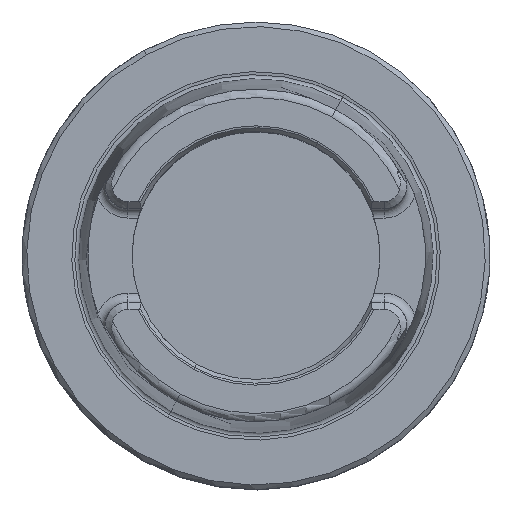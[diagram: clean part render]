
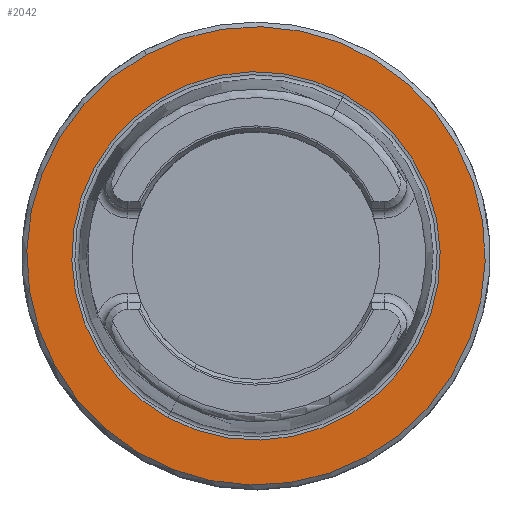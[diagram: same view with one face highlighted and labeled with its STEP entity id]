
A CAD part, top view. The second image highlights one B-rep face of the part: STEP entity #2042.
In plain terms, the highlighted planar face has unit normal (0, 0, 1).
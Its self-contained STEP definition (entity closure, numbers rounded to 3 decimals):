
#1979=AXIS2_PLACEMENT_3D('Circle Axis2P3D',#1977,#1978,$) ;
#2005=AXIS2_PLACEMENT_3D('Circle Axis2P3D',#2003,#2004,$) ;
#2018=AXIS2_PLACEMENT_3D('Plane Axis2P3D',#2015,#2016,#2017) ;
#2022=AXIS2_PLACEMENT_3D('Circle Axis2P3D',#2020,#2021,$) ;
#2031=AXIS2_PLACEMENT_3D('Circle Axis2P3D',#2029,#2030,$) ;
#1977=CARTESIAN_POINT('Axis2P3D Location',(0.,0.,0.)) ;
#1981=CARTESIAN_POINT('Vertex',(18.88,34.56,0.)) ;
#1983=CARTESIAN_POINT('Vertex',(-18.88,-34.56,0.)) ;
#2003=CARTESIAN_POINT('Axis2P3D Location',(0.,0.,0.)) ;
#2015=CARTESIAN_POINT('Axis2P3D Location',(0.,-38.285,0.)) ;
#2020=CARTESIAN_POINT('Axis2P3D Location',(0.,0.,0.)) ;
#2024=CARTESIAN_POINT('Vertex',(23.492,-43.002,0.)) ;
#2026=CARTESIAN_POINT('Vertex',(-23.492,43.002,0.)) ;
#2029=CARTESIAN_POINT('Axis2P3D Location',(0.,0.,0.)) ;
#1978=DIRECTION('Axis2P3D Direction',(0.,0.,1.)) ;
#2004=DIRECTION('Axis2P3D Direction',(0.,0.,1.)) ;
#2016=DIRECTION('Axis2P3D Direction',(0.,0.,-1.)) ;
#2017=DIRECTION('Axis2P3D XDirection',(-1.,0.,0.)) ;
#2021=DIRECTION('Axis2P3D Direction',(0.,0.,-1.)) ;
#2030=DIRECTION('Axis2P3D Direction',(0.,0.,-1.)) ;
#2035=ORIENTED_EDGE('',*,*,#2028,.F.) ;
#2036=ORIENTED_EDGE('',*,*,#2033,.F.) ;
#2039=ORIENTED_EDGE('',*,*,#1985,.T.) ;
#2040=ORIENTED_EDGE('',*,*,#2007,.T.) ;
#2041=FACE_BOUND('',#2038,.T.) ;
#2042=ADVANCED_FACE('NO_CUT',(#2037,#2041),#2019,.F.) ;
#1980=CIRCLE('generated circle',#1979,39.381) ;
#2006=CIRCLE('generated circle',#2005,39.381) ;
#2023=CIRCLE('generated circle',#2022,49.) ;
#2032=CIRCLE('generated circle',#2031,49.) ;
#1985=EDGE_CURVE('',#1982,#1984,#1980,.F.) ;
#2007=EDGE_CURVE('',#1984,#1982,#2006,.F.) ;
#2028=EDGE_CURVE('',#2025,#2027,#2023,.T.) ;
#2033=EDGE_CURVE('',#2027,#2025,#2032,.T.) ;
#2034=EDGE_LOOP('',(#2035,#2036)) ;
#2038=EDGE_LOOP('',(#2039,#2040)) ;
#2037=FACE_OUTER_BOUND('',#2034,.T.) ;
#2019=PLANE('',#2018) ;
#1982=VERTEX_POINT('',#1981) ;
#1984=VERTEX_POINT('',#1983) ;
#2025=VERTEX_POINT('',#2024) ;
#2027=VERTEX_POINT('',#2026) ;
